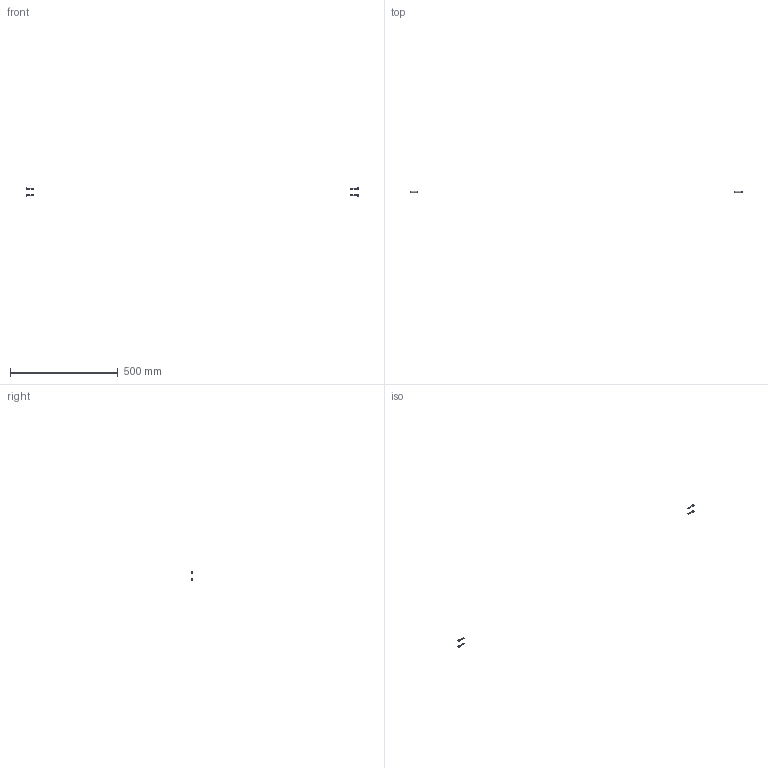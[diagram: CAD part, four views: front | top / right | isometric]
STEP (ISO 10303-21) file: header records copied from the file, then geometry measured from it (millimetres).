
FILE_DESCRIPTION(/* description */ (''),/* implementation_level */ '2;1');
FILE_NAME(/* name */ 'Y-5DBE~1',/* time_stamp */ '2014-02-14T19:39:39+01:00',/* author */ (''),/* organization */ (''),/* preprocessor_version */ 'ST-DEVELOPER v14',/* originating_system */ '',/* authorisation */ '');
FILE_SCHEMA (('AUTOMOTIVE_DESIGN'));
Length unit declared in the file: millimetre
Products named in the file (2): Document; screw DIN7984-like, low, M5x30
Assembly tree (2 placements, depth 2):
  Document
    screw DIN7984-like, low, M5x30  x2
Bounding box: 1541 x 8.5 x 40.49 mm (x, y, z)
Volume: 3064.2 mm3; surface area: 2804.5 mm2
Topology: 4 solids, 4 shells, 100 faces, 236 edges, 144 vertices
Faces by surface type: plane 60, bspline 40
Entity records: 4650 total; most frequent: CARTESIAN_POINT 2324, B_SPLINE_CURVE_WITH_KNOTS 387, ORIENTED_EDGE 342, PCURVE 342, DEFINITIONAL_REPRESENTATION 342, SURFACE_CURVE 171, EDGE_CURVE 171, VERTEX_POINT 108
